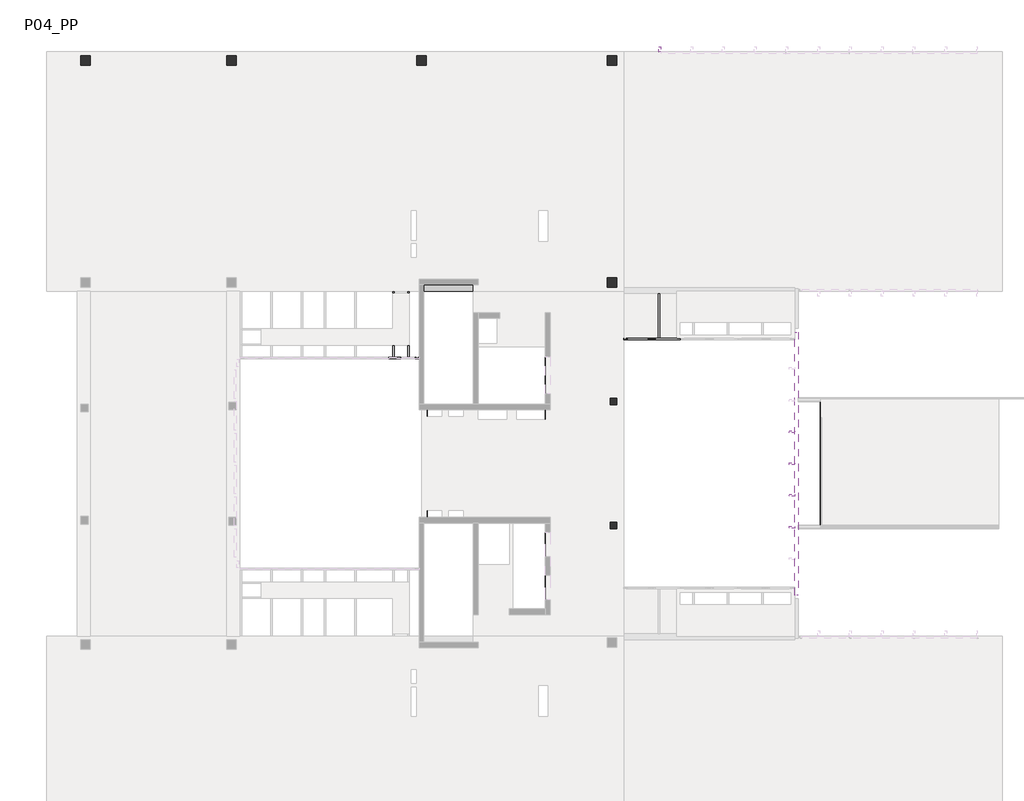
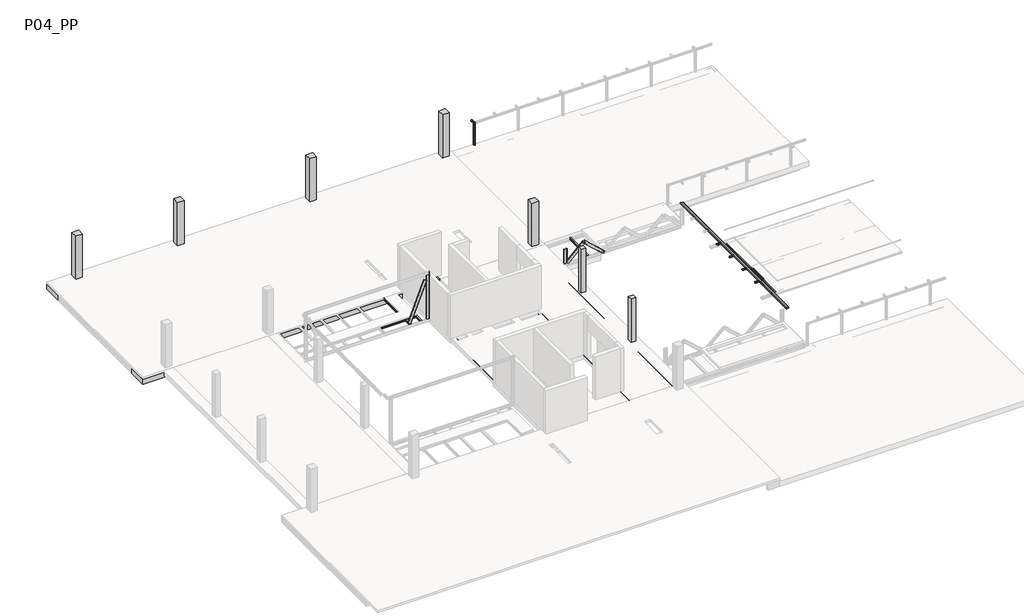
# One storey, part 4 of 5: 40 beams, 10 columns.
"""IFC4 building model written with IfcOpenShell, lengths in millimetres."""

from ifc_helpers import new_model, si_unit, frame, origin, place, context, project, spatial, polyline, outline, extrude, faceted_brep, transform, mapped, element, save
from components import m_hss_rectangular_hss_100x100_4e9eaf21, m_hss_rectangular_hss_100x100_54f2d0bd, m_hss_rectangular_hss_100x100_561cff20, m_hss_rectangular_hss_100x100_05ed1bb5, m_hss_rectangular_hss_200x100_8d3a1cac, ub_universal_beams_ipe_160x82_a4b44378, ub_universal_beams_ipe_160x82_39eb89cc, upn120x55_f3862d68, upn120x55_dbb17e30, upn200x75_e6c17937, upn200x75_e9c3a9f1, upn200x75_58a91052, rhs_rectangular_hollow_section_column_100x100x5_0rhs_4e292c9f, upn_200x75_6854b640, upn_200x75_6a680606

model = new_model("IFC4")

# Units and contexts
model_context = context("Model", 3, world=origin())
ifc_project = project(units=[si_unit("LENGTHUNIT", "METRE", prefix="MILLI")], contexts=[model_context])

# Site, building, storey
site = spatial("IfcSite", under=ifc_project)
building = spatial("IfcBuilding", under=site)
storey = spatial("IfcBuildingStorey", under=building, Name="P04_PP", Elevation=22410.0)

# Beams
placement = place(None, origin())
element("IfcBeam", 1, ObjectType="M_Concrete-Rectangular Beam : 1500 x 550mm", at=placement, inside=storey, context=model_context, shape_type="Brep", body=[
    faceted_brep([(-13390.3216429, 13539.4134441, 22410.0), (-10790.2146087, 13539.4134441, 22410.0), (-10790.2146087, 13864.8960677, 22410.0), (-13390.3216429, 13864.8960677, 22410.0), (-2913.6343046, 15039.4134441, 21860.0), (-3763.6636999, 15039.4134441, 21860.0), (-4149.6041777, 15039.4134441, 21860.0), (-4549.6041777, 15039.4134441, 21860.0), (-5816.2708415, 15039.4134441, 21860.0), (-6216.2708415, 15039.4134441, 21860.0), (-7482.9375051, 15039.4134441, 21860.0), (-7882.9375051, 15039.4134441, 21860.0), (-9149.6041702, 15039.4134441, 21860.0), (-9549.6041702, 15039.4134441, 21860.0), (-10816.2708336, 15039.4134441, 21860.0), (-11216.2708336, 15039.4134441, 21860.0), (-12482.9374977, 15039.4134441, 21860.0), (-12882.9374977, 15039.4134441, 21860.0), (-14149.604161, 15039.4134441, 21860.0), (-14549.604161, 15039.4134441, 21860.0), (-15816.2708252, 15039.4134441, 21860.0), (-16216.2708252, 15039.4134441, 21860.0), (-17482.9374898, 15039.4134441, 21860.0), (-17882.9374898, 15039.4134441, 21860.0), (-19149.6041539, 15039.4134441, 21860.0), (-19549.6041539, 15039.4134441, 21860.0), (-20816.2708168, 15039.4134441, 21860.0), (-21216.2708168, 15039.4134441, 21860.0), (-22482.9374805, 15039.4134441, 21860.0), (-22882.9374805, 15039.4134441, 21860.0), (-24149.6041453, 15039.4134441, 21860.0), (-24549.6041453, 15039.4134441, 21860.0), (-25816.2708089, 15039.4134441, 21860.0), (-26216.2708089, 15039.4134441, 21860.0), (-27482.9374731, 15039.4134441, 21860.0), (-27882.9374731, 15039.4134441, 21860.0), (-29149.6041367, 15039.4134441, 21860.0), (-29549.6041367, 15039.4134441, 21860.0), (-30816.2708024, 15039.4134441, 21860.0), (-31216.2708024, 15039.4134441, 21860.0), (-32490.2931069, 15039.4134441, 21860.0), (-33190.2931069, 15039.4134441, 21860.0), (-33190.2931069, 15039.4134441, 22260.0), (-32490.2931069, 15039.4134441, 22260.0), (-31216.2708024, 15039.4134441, 22260.0), (-30816.2708024, 15039.4134441, 22260.0), (-29549.6041367, 15039.4134441, 22260.0), (-29149.6041367, 15039.4134441, 22260.0), (-27882.9374731, 15039.4134441, 22260.0), (-27482.9374731, 15039.4134441, 22260.0), (-26216.2708089, 15039.4134441, 22260.0), (-25816.2708089, 15039.4134441, 22260.0), (-24549.6041453, 15039.4134441, 22260.0), (-24149.6041453, 15039.4134441, 22260.0), (-22882.9374805, 15039.4134441, 22260.0), (-22482.9374805, 15039.4134441, 22260.0), (-21216.2708168, 15039.4134441, 22260.0), (-20816.2708168, 15039.4134441, 22260.0), (-19549.6041539, 15039.4134441, 22260.0), (-19149.6041539, 15039.4134441, 22260.0), (-17882.9374898, 15039.4134441, 22260.0), (-17482.9374898, 15039.4134441, 22260.0), (-16216.2708252, 15039.4134441, 22260.0), (-15816.2708252, 15039.4134441, 22260.0), (-14549.604161, 15039.4134441, 22260.0), (-14149.604161, 15039.4134441, 22260.0), (-12882.9374977, 15039.4134441, 22260.0), (-12482.9374977, 15039.4134441, 22260.0), (-11216.2708336, 15039.4134441, 22260.0), (-10816.2708336, 15039.4134441, 22260.0), (-9549.6041702, 15039.4134441, 22260.0), (-9149.6041702, 15039.4134441, 22260.0), (-7882.9375051, 15039.4134441, 22260.0), (-7482.9375051, 15039.4134441, 22260.0), (-6216.2708415, 15039.4134441, 22260.0), (-5816.2708415, 15039.4134441, 22260.0), (-4549.6041777, 15039.4134441, 22260.0), (-4149.6041777, 15039.4134441, 22260.0), (-3763.6636999, 15039.4134441, 22260.0), (-2913.6343046, 15039.4134441, 22260.0), (-33190.2931069, 13539.4134441, 21860.0), (-2913.6343046, 14239.4134441, 21860.0), (-2913.6343046, 13539.4134441, 21860.0), (-3816.633703, 13539.4134441, 21860.0), (-13390.3216429, 13539.4134441, 21860.0), (-13390.3216429, 13864.8960687, 21860.0), (-10540.3248355, 13864.8960687, 21860.0), (-10540.3248355, 14164.8960687, 21860.0), (-13640.3216429, 14164.8960687, 21860.0), (-13640.3216429, 13539.4134441, 21860.0), (-23241.1836608, 13739.4137599, 21860.0), (-23241.1836604, 14289.4137599, 21860.0), (-23791.1836604, 14289.4137604, 21860.0), (-23791.1836608, 13739.4137604, 21860.0), (-30841.2250811, 13739.413749, 21860.0), (-30841.22508, 14289.413749, 21860.0), (-31391.22508, 14289.4137502, 21860.0), (-31391.2250811, 13739.4137502, 21860.0), (-3816.6337027, 13714.4124942, 21860.0), (-3266.6337027, 13714.412495, 21860.0), (-3266.6337035, 14239.4134441, 21860.0), (-3266.6337035, 14264.412495, 21860.0), (-3763.6636999, 14264.4124943, 21860.0), (-3816.6337035, 14264.4124942, 21860.0), (-13640.3216429, 13539.4134441, 22110.0542339), (-13390.3216429, 13539.4134441, 22110.0542339), (-2913.6343046, 13539.4134441, 22110.0), (-2913.6343046, 13539.4134441, 22260.0), (-10790.2146087, 13539.4134441, 22260.0), (-13390.3216429, 13539.4134441, 22260.0), (-33190.2931069, 13539.4134441, 22260.0), (-3816.6337027, 13714.4124942, 22110.0), (-3266.6337027, 13714.412495, 22110.0), (-3816.6337035, 14264.4124942, 22110.0), (-3266.6337035, 14264.412495, 22110.0), (-23241.1836608, 13739.4137599, 22110.0), (-23241.1836604, 14289.4137599, 22110.0), (-23791.1836608, 13739.4137604, 22110.0), (-23791.1836604, 14289.4137604, 22110.0), (-30841.2250811, 13739.413749, 22110.0), (-30841.22508, 14289.413749, 22110.0), (-31391.2250811, 13739.4137502, 22110.0), (-31391.22508, 14289.4137502, 22110.0), (-10540.3248355, 14164.8960687, 22110.0542339), (-13640.3216429, 14164.8960687, 22110.0542339), (-10540.3248355, 13864.8960687, 22110.0542339), (-13390.3216429, 13864.8960687, 22110.0542339), (-13640.3216429, 13864.8960687, 22110.0542339), (-10790.2146087, 13864.8960677, 22260.0), (-13390.3216429, 13864.8960677, 22260.0)], [[[0, 1, 2, 3]], [[4, 5, 6, 7, 8, 9, 10, 11, 12, 13, 14, 15, 16, 17, 18, 19, 20, 21, 22, 23, 24, 25, 26, 27, 28, 29, 30, 31, 32, 33, 34, 35, 36, 37, 38, 39, 40, 41, 42, 43, 44, 45, 46, 47, 48, 49, 50, 51, 52, 53, 54, 55, 56, 57, 58, 59, 60, 61, 62, 63, 64, 65, 66, 67, 68, 69, 70, 71, 72, 73, 74, 75, 76, 77, 78, 79]], [[80, 41, 40, 39, 38, 37, 36, 35, 34, 33, 32, 31, 30, 29, 28, 27, 26, 25, 24, 23, 22, 21, 20, 19, 18, 17, 16, 15, 14, 13, 12, 11, 10, 9, 8, 7, 6, 5, 4, 81, 82, 83, 84, 85, 86, 87, 88, 89], [90, 91, 92, 93], [94, 95, 96, 97], [98, 99, 100, 101, 102, 103]], [[89, 104, 105, 84, 83, 82, 106, 107, 108, 1, 0, 109, 110, 80]], [[41, 80, 110, 42]], [[111, 112, 99, 98]], [[113, 111, 98, 103]], [[114, 113, 103, 102, 101]], [[114, 112, 111, 113]], [[115, 116, 91, 90]], [[117, 115, 90, 93]], [[118, 117, 93, 92]], [[116, 118, 92, 91]], [[116, 115, 117, 118]], [[119, 120, 95, 94]], [[121, 119, 94, 97]], [[122, 121, 97, 96]], [[120, 122, 96, 95]], [[120, 119, 121, 122]], [[123, 124, 88, 87]], [[125, 86, 85, 126]], [[124, 123, 125, 126, 105, 104, 127]], [[125, 123, 87, 86]], [[88, 124, 127, 104, 89]], [[105, 126, 85, 84]], [[82, 81, 4, 79, 107, 106]], [[112, 114, 101, 100, 99]], [[128, 108, 107, 79, 78, 77, 76, 75, 74, 73, 72, 71, 70, 69, 68, 67, 66, 65, 64, 63, 62, 61, 60, 59, 58, 57, 56, 55, 54, 53, 52, 51, 50, 49, 48, 47, 46, 45, 44, 43, 42, 110, 109, 129]], [[128, 129, 3, 2]], [[129, 109, 0, 3]], [[108, 128, 2, 1]]]),
])
element("IfcBeam", 2, ObjectType="M_Concrete-Rectangular Beam : 1500 x 550mm", at=placement, inside=storey, context=model_context, shape_type="Brep", body=[
    faceted_brep([(-3816.6337142, 26089.4144807, 21860.0), (-33190.2931069, 26089.4144807, 21860.0), (-33190.2931069, 26089.4144807, 22260.0), (-3763.6636999, 26089.4144807, 22260.0), (-3763.6636999, 26089.4144807, 22110.0), (-3816.6337142, 26089.4144807, 22110.0), (-33190.2931069, 24589.4144807, 21860.0), (-3816.6337137, 25339.4136759, 21860.0), (-3763.6636999, 25339.413676, 21860.0), (-3763.6636999, 24589.4144807, 21860.0), (-4149.6041777, 24589.4144807, 21860.0), (-4549.6041777, 24589.4144807, 21860.0), (-5816.2708415, 24589.4144807, 21860.0), (-6216.2708415, 24589.4144807, 21860.0), (-7482.9375051, 24589.4144807, 21860.0), (-7882.9375051, 24589.4144807, 21860.0), (-9149.6041702, 24589.4144807, 21860.0), (-9549.6041702, 24589.4144807, 21860.0), (-10816.2708336, 24589.4144807, 21860.0), (-11216.2708336, 24589.4144807, 21860.0), (-12482.9374977, 24589.4144807, 21860.0), (-12882.9374977, 24589.4144807, 21860.0), (-14149.604161, 24589.4144807, 21860.0), (-14549.604161, 24589.4144807, 21860.0), (-15816.2708252, 24589.4144807, 21860.0), (-16216.2708252, 24589.4144807, 21860.0), (-17482.9374898, 24589.4144807, 21860.0), (-17882.9374898, 24589.4144807, 21860.0), (-19149.6041539, 24589.4144807, 21860.0), (-19549.6041539, 24589.4144807, 21860.0), (-20816.2708168, 24589.4144807, 21860.0), (-21216.2708168, 24589.4144807, 21860.0), (-22482.9374805, 24589.4144807, 21860.0), (-22882.9374805, 24589.4144807, 21860.0), (-24149.6041453, 24589.4144807, 21860.0), (-24549.6041453, 24589.4144807, 21860.0), (-25816.2708089, 24589.4144807, 21860.0), (-26216.2708089, 24589.4144807, 21860.0), (-27482.9374731, 24589.4144807, 21860.0), (-27882.9374731, 24589.4144807, 21860.0), (-29149.6041367, 24589.4144807, 21860.0), (-29549.6041367, 24589.4144807, 21860.0), (-30816.2708024, 24589.4144807, 21860.0), (-31216.2708024, 24589.4144807, 21860.0), (-32490.2931069, 24589.4144807, 21860.0), (-13241.1844619, 25339.4121159, 21860.0), (-13241.1844629, 25889.4121159, 21860.0), (-13791.1844629, 25889.4121149, 21860.0), (-13791.1844619, 25339.4121149, 21860.0), (-23241.1831655, 25339.4135766, 21860.0), (-23241.1831663, 25889.4135766, 21860.0), (-23791.1831663, 25889.4135759, 21860.0), (-23791.1831655, 25339.4135759, 21860.0), (-30841.2187551, 25339.4135456, 21860.0), (-30841.2187544, 25889.4135456, 21860.0), (-31391.2187544, 25889.4135463, 21860.0), (-31391.2187551, 25339.4135463, 21860.0), (-3763.6636999, 24589.4144807, 22260.0), (-4149.6041777, 24589.4144807, 22260.0), (-4549.6041777, 24589.4144807, 22260.0), (-5816.2708415, 24589.4144807, 22260.0), (-6216.2708415, 24589.4144807, 22260.0), (-7482.9375051, 24589.4144807, 22260.0), (-7882.9375051, 24589.4144807, 22260.0), (-9149.6041702, 24589.4144807, 22260.0), (-9549.6041702, 24589.4144807, 22260.0), (-10816.2708336, 24589.4144807, 22260.0), (-11216.2708336, 24589.4144807, 22260.0), (-12482.9374977, 24589.4144807, 22260.0), (-12882.9374977, 24589.4144807, 22260.0), (-14149.604161, 24589.4144807, 22260.0), (-14549.604161, 24589.4144807, 22260.0), (-15816.2708252, 24589.4144807, 22260.0), (-16216.2708252, 24589.4144807, 22260.0), (-17482.9374898, 24589.4144807, 22260.0), (-17882.9374898, 24589.4144807, 22260.0), (-19149.6041539, 24589.4144807, 22260.0), (-19549.6041539, 24589.4144807, 22260.0), (-20816.2708168, 24589.4144807, 22260.0), (-21216.2708168, 24589.4144807, 22260.0), (-22482.9374805, 24589.4144807, 22260.0), (-22882.9374805, 24589.4144807, 22260.0), (-24149.6041453, 24589.4144807, 22260.0), (-24549.6041453, 24589.4144807, 22260.0), (-25816.2708089, 24589.4144807, 22260.0), (-26216.2708089, 24589.4144807, 22260.0), (-27482.9374731, 24589.4144807, 22260.0), (-27882.9374731, 24589.4144807, 22260.0), (-29149.6041367, 24589.4144807, 22260.0), (-29549.6041367, 24589.4144807, 22260.0), (-30816.2708024, 24589.4144807, 22260.0), (-31216.2708024, 24589.4144807, 22260.0), (-32490.2931069, 24589.4144807, 22260.0), (-33190.2931069, 24589.4144807, 22260.0), (-13241.1844619, 25339.4121159, 22110.0), (-13241.1844629, 25889.4121159, 22110.0), (-13791.1844619, 25339.4121149, 22110.0), (-13791.1844629, 25889.4121149, 22110.0), (-23241.1831655, 25339.4135766, 22110.0), (-23241.1831663, 25889.4135766, 22110.0), (-23791.1831655, 25339.4135759, 22110.0), (-23791.1831663, 25889.4135759, 22110.0), (-30841.2187551, 25339.4135456, 22110.0), (-30841.2187544, 25889.4135456, 22110.0), (-31391.2187551, 25339.4135463, 22110.0), (-31391.2187544, 25889.4135463, 22110.0), (-3816.6337137, 25339.4136759, 22110.0), (-3763.6636999, 25339.413676, 22110.0), (-3816.6337144, 25889.4136759, 22110.0)], [[[0, 1, 2, 3, 4, 5]], [[6, 1, 0, 7, 8, 9, 10, 11, 12, 13, 14, 15, 16, 17, 18, 19, 20, 21, 22, 23, 24, 25, 26, 27, 28, 29, 30, 31, 32, 33, 34, 35, 36, 37, 38, 39, 40, 41, 42, 43, 44], [45, 46, 47, 48], [49, 50, 51, 52], [53, 54, 55, 56]], [[6, 44, 43, 42, 41, 40, 39, 38, 37, 36, 35, 34, 33, 32, 31, 30, 29, 28, 27, 26, 25, 24, 23, 22, 21, 20, 19, 18, 17, 16, 15, 14, 13, 12, 11, 10, 9, 57, 58, 59, 60, 61, 62, 63, 64, 65, 66, 67, 68, 69, 70, 71, 72, 73, 74, 75, 76, 77, 78, 79, 80, 81, 82, 83, 84, 85, 86, 87, 88, 89, 90, 91, 92, 93]], [[1, 6, 93, 2]], [[94, 95, 46, 45]], [[96, 94, 45, 48]], [[97, 96, 48, 47]], [[95, 97, 47, 46]], [[95, 94, 96, 97]], [[98, 99, 50, 49]], [[100, 98, 49, 52]], [[101, 100, 52, 51]], [[99, 101, 51, 50]], [[99, 98, 100, 101]], [[102, 103, 54, 53]], [[104, 102, 53, 56]], [[105, 104, 56, 55]], [[103, 105, 55, 54]], [[103, 102, 104, 105]], [[7, 106, 107, 8]], [[106, 7, 0, 5, 108]], [[107, 106, 108, 5, 4]], [[9, 8, 107, 4, 3, 57]], [[3, 2, 93, 92, 91, 90, 89, 88, 87, 86, 85, 84, 83, 82, 81, 80, 79, 78, 77, 76, 75, 74, 73, 72, 71, 70, 69, 68, 67, 66, 65, 64, 63, 62, 61, 60, 59, 58, 57]]]),
])
element("IfcBeam", 3, ObjectType="M_Concrete-Rectangular Beam : 300 x 300mm", at=placement, inside=storey, context=model_context, shape_type="Brep", body=[
    faceted_brep([(-6715.3241677, 13539.4134441, 22410.0), (-7015.3241677, 13539.4134441, 22410.0), (-7015.3241677, -4560.5861501, 22410.0), (-6715.3241677, -4560.5861501, 22410.0), (-7015.3241677, 13539.4134441, 22260.0), (-7015.3241677, 13539.4134441, 22110.0), (-7015.3241677, -4560.5861501, 22110.0), (-7015.3241677, -4560.5861501, 22260.0), (-6715.3241677, 13539.4134441, 22110.0), (-6715.3241677, -4560.5861501, 22110.0), (-6715.3241677, -4560.5861501, 22260.0), (-6715.3241677, 13539.4134441, 22260.0)], [[[0, 1, 2, 3]], [[2, 1, 4, 5, 6, 7]], [[5, 8, 9, 6]], [[0, 3, 10, 9, 8, 11]], [[1, 0, 11, 8, 5, 4]], [[3, 2, 7, 6, 9, 10]]]),
])
element("IfcBeam", 4, ObjectType="M_Concrete-Rectangular Beam : 300 x 300mm", at=placement, inside=storey, context=model_context, shape_type="SweptSolid", body=[
    extrude(outline(polyline([(-13515.3183744, 7614.8960673), (-13215.3183744, 7614.8960673), (-13215.3183744, 1364.8960692), (-13515.3183744, 1364.8960692), (-13515.3183744, 7614.8960673)])), frame((0.0, 0.0, 22110.0), z_axis=(0.0, 0.0, 1.0), x_axis=(1.0, 0.0, 0.0)), (0.0, 0.0, 1.0), 300.0),
])
element("IfcBeam", 5, ObjectType="M_Concrete-Rectangular Beam : 400 x 550mm", at=placement, inside=storey, context=model_context, shape_type="SweptSolid", body=[
    extrude(outline(polyline([(-30816.2708024, 15039.4134441), (-31216.2708024, 15039.4134441), (-31216.2708024, 24589.4144807), (-30816.2708024, 24589.4144807), (-30816.2708024, 15039.4134441)])), frame((0.0, 0.0, 21860.0), z_axis=(0.0, 0.0, 1.0), x_axis=(1.0, 0.0, 0.0)), (0.0, 0.0, 1.0), 400.0),
])
element("IfcBeam", 6, ObjectType="M_Concrete-Rectangular Beam : 400 x 550mm", at=placement, inside=storey, context=model_context, shape_type="SweptSolid", body=[
    extrude(outline(polyline([(-29149.6041367, 15039.4134441), (-29549.6041367, 15039.4134441), (-29549.6041367, 24589.4144807), (-29149.6041367, 24589.4144807), (-29149.6041367, 15039.4134441)])), frame((0.0, 0.0, 21860.0), z_axis=(0.0, 0.0, 1.0), x_axis=(1.0, 0.0, 0.0)), (0.0, 0.0, 1.0), 400.0),
])
element("IfcBeam", 7, ObjectType="M_Concrete-Rectangular Beam : 400 x 550mm", at=placement, inside=storey, context=model_context, shape_type="SweptSolid", body=[
    extrude(outline(polyline([(-27482.9374731, 15039.4134441), (-27882.9374731, 15039.4134441), (-27882.9374731, 24589.4144807), (-27482.9374731, 24589.4144807), (-27482.9374731, 15039.4134441)])), frame((0.0, 0.0, 21860.0), z_axis=(0.0, 0.0, 1.0), x_axis=(1.0, 0.0, 0.0)), (0.0, 0.0, 1.0), 400.0),
])
element("IfcBeam", 8, ObjectType="M_Concrete-Rectangular Beam : 400 x 550mm", at=placement, inside=storey, context=model_context, shape_type="SweptSolid", body=[
    extrude(outline(polyline([(-25816.2708089, 15039.4134441), (-26216.2708089, 15039.4134441), (-26216.2708089, 24589.4144807), (-25816.2708089, 24589.4144807), (-25816.2708089, 15039.4134441)])), frame((0.0, 0.0, 21860.0), z_axis=(0.0, 0.0, 1.0), x_axis=(1.0, 0.0, 0.0)), (0.0, 0.0, 1.0), 400.0),
])
element("IfcBeam", 9, ObjectType="M_Concrete-Rectangular Beam : 400 x 550mm", at=placement, inside=storey, context=model_context, shape_type="SweptSolid", body=[
    extrude(outline(polyline([(-24149.6041453, 15039.4134441), (-24549.6041453, 15039.4134441), (-24549.6041453, 24589.4144807), (-24149.6041453, 24589.4144807), (-24149.6041453, 15039.4134441)])), frame((0.0, 0.0, 21860.0), z_axis=(0.0, 0.0, 1.0), x_axis=(1.0, 0.0, 0.0)), (0.0, 0.0, 1.0), 400.0),
])
element("IfcBeam", 10, ObjectType="M_Concrete-Rectangular Beam : 400 x 550mm", at=placement, inside=storey, context=model_context, shape_type="SweptSolid", body=[
    extrude(outline(polyline([(-22482.9374805, 15039.4134441), (-22882.9374805, 15039.4134441), (-22882.9374805, 24589.4144807), (-22482.9374805, 24589.4144807), (-22482.9374805, 15039.4134441)])), frame((0.0, 0.0, 21860.0), z_axis=(0.0, 0.0, 1.0), x_axis=(1.0, 0.0, 0.0)), (0.0, 0.0, 1.0), 400.0),
])
element("IfcBeam", 11, ObjectType="M_Concrete-Rectangular Beam : 400 x 550mm", at=placement, inside=storey, context=model_context, shape_type="SweptSolid", body=[
    extrude(outline(polyline([(-20816.2708168, 15039.4134441), (-21216.2708168, 15039.4134441), (-21216.2708168, 24589.4144807), (-20816.2708168, 24589.4144807), (-20816.2708168, 15039.4134441)])), frame((0.0, 0.0, 21860.0), z_axis=(0.0, 0.0, 1.0), x_axis=(1.0, 0.0, 0.0)), (0.0, 0.0, 1.0), 400.0),
])
element("IfcBeam", 12, ObjectType="M_Concrete-Rectangular Beam : 400 x 550mm", at=placement, inside=storey, context=model_context, shape_type="SweptSolid", body=[
    extrude(outline(polyline([(-19149.6041539, 15039.4134441), (-19549.6041539, 15039.4134441), (-19549.6041539, 24589.4144807), (-19149.6041539, 24589.4144807), (-19149.6041539, 15039.4134441)])), frame((0.0, 0.0, 21860.0), z_axis=(0.0, 0.0, 1.0), x_axis=(1.0, 0.0, 0.0)), (0.0, 0.0, 1.0), 400.0),
])
element("IfcBeam", 13, ObjectType="M_Concrete-Rectangular Beam : 400 x 550mm", at=placement, inside=storey, context=model_context, shape_type="SweptSolid", body=[
    extrude(outline(polyline([(-17482.9374898, 15039.4134441), (-17882.9374898, 15039.4134441), (-17882.9374898, 24589.4144807), (-17482.9374898, 24589.4144807), (-17482.9374898, 15039.4134441)])), frame((0.0, 0.0, 21860.0), z_axis=(0.0, 0.0, 1.0), x_axis=(1.0, 0.0, 0.0)), (0.0, 0.0, 1.0), 400.0),
])
element("IfcBeam", 14, ObjectType="M_Concrete-Rectangular Beam : 400 x 550mm", at=placement, inside=storey, context=model_context, shape_type="SweptSolid", body=[
    extrude(outline(polyline([(-15816.2708252, 15039.4134441), (-16216.2708252, 15039.4134441), (-16216.2708252, 24589.4144807), (-15816.2708252, 24589.4144807), (-15816.2708252, 15039.4134441)])), frame((0.0, 0.0, 21860.0), z_axis=(0.0, 0.0, 1.0), x_axis=(1.0, 0.0, 0.0)), (0.0, 0.0, 1.0), 400.0),
])
element("IfcBeam", 15, ObjectType="M_Concrete-Rectangular Beam : 400 x 550mm", at=placement, inside=storey, context=model_context, shape_type="SweptSolid", body=[
    extrude(outline(polyline([(-14149.604161, 15039.4134441), (-14549.604161, 15039.4134441), (-14549.604161, 24589.4144807), (-14149.604161, 24589.4144807), (-14149.604161, 15039.4134441)])), frame((0.0, 0.0, 21860.0), z_axis=(0.0, 0.0, 1.0), x_axis=(1.0, 0.0, 0.0)), (0.0, 0.0, 1.0), 400.0),
])
element("IfcBeam", 16, ObjectType="M_Concrete-Rectangular Beam : 400 x 550mm", at=placement, inside=storey, context=model_context, shape_type="SweptSolid", body=[
    extrude(outline(polyline([(-12482.9374977, 15039.4134441), (-12882.9374977, 15039.4134441), (-12882.9374977, 24589.4144807), (-12482.9374977, 24589.4144807), (-12482.9374977, 15039.4134441)])), frame((0.0, 0.0, 21860.0), z_axis=(0.0, 0.0, 1.0), x_axis=(1.0, 0.0, 0.0)), (0.0, 0.0, 1.0), 400.0),
])
element("IfcBeam", 17, ObjectType="M_Concrete-Rectangular Beam : 400 x 550mm", at=placement, inside=storey, context=model_context, shape_type="SweptSolid", body=[
    extrude(outline(polyline([(-10816.2708336, 15039.4134441), (-11216.2708336, 15039.4134441), (-11216.2708336, 24589.4144807), (-10816.2708336, 24589.4144807), (-10816.2708336, 15039.4134441)])), frame((0.0, 0.0, 21860.0), z_axis=(0.0, 0.0, 1.0), x_axis=(1.0, 0.0, 0.0)), (0.0, 0.0, 1.0), 400.0),
])
element("IfcBeam", 18, ObjectType="M_Concrete-Rectangular Beam : 400 x 550mm", at=placement, inside=storey, context=model_context, shape_type="SweptSolid", body=[
    extrude(outline(polyline([(-9149.6041702, 15039.4134441), (-9549.6041702, 15039.4134441), (-9549.6041702, 24589.4144807), (-9149.6041702, 24589.4144807), (-9149.6041702, 15039.4134441)])), frame((0.0, 0.0, 21860.0), z_axis=(0.0, 0.0, 1.0), x_axis=(1.0, 0.0, 0.0)), (0.0, 0.0, 1.0), 400.0),
])
element("IfcBeam", 19, ObjectType="M_Concrete-Rectangular Beam : 400 x 550mm", at=placement, inside=storey, context=model_context, shape_type="SweptSolid", body=[
    extrude(outline(polyline([(-7482.9375051, 15039.4134441), (-7882.9375051, 15039.4134441), (-7882.9375051, 24589.4144807), (-7482.9375051, 24589.4144807), (-7482.9375051, 15039.4134441)])), frame((0.0, 0.0, 21860.0), z_axis=(0.0, 0.0, 1.0), x_axis=(1.0, 0.0, 0.0)), (0.0, 0.0, 1.0), 400.0),
])
element("IfcBeam", 20, ObjectType="M_Concrete-Rectangular Beam : 400 x 550mm", at=placement, inside=storey, context=model_context, shape_type="SweptSolid", body=[
    extrude(outline(polyline([(-5816.2708415, 15039.4134441), (-6216.2708415, 15039.4134441), (-6216.2708415, 24589.4144807), (-5816.2708415, 24589.4144807), (-5816.2708415, 15039.4134441)])), frame((0.0, 0.0, 21860.0), z_axis=(0.0, 0.0, 1.0), x_axis=(1.0, 0.0, 0.0)), (0.0, 0.0, 1.0), 400.0),
])
element("IfcBeam", 21, ObjectType="M_Concrete-Rectangular Beam : 400 x 550mm", at=placement, inside=storey, context=model_context, shape_type="SweptSolid", body=[
    extrude(outline(polyline([(-4149.6041777, 15039.4134441), (-4549.6041777, 15039.4134441), (-4549.6041777, 24589.4144807), (-4149.6041777, 24589.4144807), (-4149.6041777, 15039.4134441)])), frame((0.0, 0.0, 21860.0), z_axis=(0.0, 0.0, 1.0), x_axis=(1.0, 0.0, 0.0)), (0.0, 0.0, 1.0), 400.0),
])
element("IfcBeam", 22, ObjectType="M_Concrete-Rectangular Beam : 850 x 300mm", at=placement, inside=storey, context=model_context, shape_type="Brep", body=[
    faceted_brep([(-2913.6343046, 13539.4134441, 22410.0), (-3763.6343046, 13539.4134441, 22410.0), (-3763.6343046, -4560.5861501, 22410.0), (-2913.6343046, -4560.5861501, 22410.0), (-3763.6343046, 13539.4134441, 22260.0), (-3763.6343046, 13539.4134441, 22110.0), (-3763.6343046, -4560.5861501, 22110.0), (-3763.6343046, -4560.5861501, 22260.0), (-2913.6343046, 13539.4134441, 22110.0), (-2913.6343046, -4560.5861501, 22110.0), (-2913.6343046, -4560.5861501, 22260.0), (-2913.6343046, 13539.4134441, 22260.0)], [[[0, 1, 2, 3]], [[2, 1, 4, 5, 6, 7]], [[5, 8, 9, 6]], [[0, 3, 10, 9, 8, 11]], [[1, 0, 11, 8, 5, 4]], [[3, 2, 7, 6, 9, 10]]]),
])
element("IfcBeam", 23, ObjectType="M_Concrete-Rectangular Beam : 850 x 700mm", at=placement, inside=storey, context=model_context, shape_type="Brep", body=[
    faceted_brep([(-3266.6337035, 14264.412495, 21710.0), (-3763.6636999, 14264.4124943, 21710.0), (-3763.6636999, 25339.413676, 21710.0), (-3266.6337137, 25339.4136766, 21710.0), (-3266.6337138, 25389.4144807, 21710.0), (-2913.6636999, 25389.4144807, 21710.0), (-2913.6636999, 14239.4134441, 21710.0), (-3266.6337035, 14239.4134441, 21710.0), (-2913.6636999, 15039.4134441, 22110.0), (-2913.6636999, 15039.4134441, 21860.0), (-2913.6636999, 14239.4134441, 21860.0), (-2913.6636999, 25389.4144807, 22110.0), (-2913.6636999, 26089.4144807, 22110.0), (-2913.6636999, 26089.4144807, 22260.0), (-2913.6636999, 15039.4134441, 22260.0), (-3763.6636999, 26089.4144807, 22110.0), (-3763.6636999, 26089.4144807, 22260.0), (-3763.6636999, 15039.4134441, 21860.0), (-3763.6636999, 15039.4134441, 22260.0), (-3763.6636999, 15039.4134441, 22110.0), (-3763.6636999, 14264.4124943, 21860.0), (-3266.6337035, 14264.412495, 21860.0), (-3266.6337035, 14239.4134441, 21860.0), (-3763.6636999, 24589.4144807, 22260.0), (-3763.6636999, 25339.413676, 22110.0), (-3763.6636999, 25339.413676, 21860.0), (-3266.6337137, 25339.4136766, 22110.0), (-3266.6337138, 25389.4144807, 22110.0)], [[[0, 1, 2, 3, 4, 5, 6, 7]], [[8, 9, 10, 6, 5, 11, 12, 13, 14]], [[12, 15, 16, 13]], [[17, 9, 8, 14, 18, 19]], [[9, 17, 20, 21, 22, 10]], [[21, 0, 7, 22]], [[0, 21, 20, 1]], [[17, 19, 18, 23, 16, 15, 24, 25, 2, 1, 20]], [[3, 26, 27, 4]], [[26, 3, 2, 25, 24]], [[26, 24, 15, 12, 11, 27]], [[5, 4, 27, 11]], [[7, 6, 10, 22]], [[14, 13, 16, 23, 18]]]),
])
m_hss_rectangular_hss_100x100_shape = m_hss_rectangular_hss_100x100_4e9eaf21(model_context)
element("IfcBeam", 24, ObjectType="M_HSS Rectangular : HSS 100x100", at=placement, inside=storey, context=model_context, shape_type="MappedRepresentation", body=[
    mapped(m_hss_rectangular_hss_100x100_shape, transform((-1015.318447, 26204.41325, 23860.0), x_axis=(1.2959202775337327e-06, 0.9999999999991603, 0.0), y_axis=(-0.9999999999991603, 1.2959202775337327e-06, 0.0), z_axis=(0.0, 0.0, 1.0))),
])
m_hss_rectangular_hss_100x100_2_shape = m_hss_rectangular_hss_100x100_54f2d0bd(model_context)
element("IfcBeam", 25, ObjectType="M_HSS Rectangular : HSS 100x100", at=placement, inside=storey, context=model_context, shape_type="MappedRepresentation", body=[
    mapped(m_hss_rectangular_hss_100x100_2_shape, transform((5968.4880893, 1155.685482, 23860.0), x_axis=(1.0, -1.2790382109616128e-09, 0.0), y_axis=(1.2790382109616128e-09, 1.0, 0.0), z_axis=(0.0, 0.0, 1.0))),
])
element("IfcBeam", 26, ObjectType="M_HSS Rectangular : HSS 100x100", at=placement, inside=storey, context=model_context, shape_type="MappedRepresentation", body=[
    mapped(m_hss_rectangular_hss_100x100_2_shape, transform((5968.4880893, 4489.0854831, 23860.0), x_axis=(1.0, -1.2790382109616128e-09, 0.0), y_axis=(1.2790382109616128e-09, 1.0, 0.0), z_axis=(0.0, 0.0, 1.0))),
])
m_hss_rectangular_hss_100x100_3_shape = m_hss_rectangular_hss_100x100_561cff20(model_context)
element("IfcBeam", 27, ObjectType="M_HSS Rectangular : HSS 100x100", at=placement, inside=storey, context=model_context, shape_type="MappedRepresentation", body=[
    mapped(m_hss_rectangular_hss_100x100_3_shape, transform((5918.3679567, 6155.7854813, 23860.0), x_axis=(1.0, -1.2790382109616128e-09, 0.0), y_axis=(1.2790382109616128e-09, 1.0, 0.0), z_axis=(0.0, 0.0, 1.0))),
])
element("IfcBeam", 28, ObjectType="M_HSS Rectangular : HSS 100x100", at=placement, inside=storey, context=model_context, shape_type="MappedRepresentation", body=[
    mapped(m_hss_rectangular_hss_100x100_3_shape, transform((5918.3976003, 2822.3854816, 23860.0), x_axis=(1.0, -1.2790382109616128e-09, 0.0), y_axis=(1.2790382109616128e-09, 1.0, 0.0), z_axis=(0.0, 0.0, 1.0))),
])
m_hss_rectangular_hss_100x100_4_shape = m_hss_rectangular_hss_100x100_05ed1bb5(model_context)
element("IfcBeam", 29, ObjectType="M_HSS Rectangular : HSS 100x100", at=placement, inside=storey, context=model_context, shape_type="MappedRepresentation", body=[
    mapped(m_hss_rectangular_hss_100x100_4_shape, transform((7459.6623591, 4499.1459706, 22380.0), x_axis=(-5.948516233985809e-09, -1.0, 0.0), y_axis=(1.0, -5.948516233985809e-09, 0.0), z_axis=(0.0, 0.0, 1.0))),
])
m_hss_rectangular_hss_200x100_shape = m_hss_rectangular_hss_200x100_8d3a1cac(model_context)
element("IfcBeam", 30, ObjectType="M_HSS Rectangular : HSS 200x100", at=placement, inside=storey, context=model_context, shape_type="MappedRepresentation", body=[
    mapped(m_hss_rectangular_hss_200x100_shape, transform((6158.3641895, 4489.413647, 23860.0), x_axis=(1.778582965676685e-05, -0.999999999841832, 0.0), y_axis=(0.0, 0.0, -1.0), z_axis=(0.999999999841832, 1.778582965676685e-05, 0.0))),
])
ub_universal_beams_ipe_160x82_shape = ub_universal_beams_ipe_160x82_a4b44378(model_context)
element("IfcBeam", 31, ObjectType="UB-Universal Beams : IPE 160x82", at=placement, inside=storey, context=model_context, shape_type="MappedRepresentation", body=[
    mapped(ub_universal_beams_ipe_160x82_shape, transform((-14190.4459331, 12171.9464504, 22330.0), x_axis=(0.0, -1.0, 0.0), y_axis=(1.0, 0.0, 0.0), z_axis=(0.0, 0.0, 1.0))),
])
element("IfcBeam", 32, ObjectType="UB-Universal Beams : IPE 160x82", at=placement, inside=storey, context=model_context, shape_type="MappedRepresentation", body=[
    mapped(ub_universal_beams_ipe_160x82_shape, transform((-14990.4459326, 12171.9464378, 22330.0), x_axis=(0.0, -1.0, 0.0), y_axis=(1.0, 0.0, 0.0), z_axis=(0.0, 0.0, 1.0))),
])
ub_universal_beams_ipe_160x82_2_shape = ub_universal_beams_ipe_160x82_39eb89cc(model_context)
element("IfcBeam", 33, ObjectType="UB-Universal Beams : IPE 160x82", at=placement, inside=storey, context=model_context, shape_type="MappedRepresentation", body=[
    mapped(ub_universal_beams_ipe_160x82_2_shape, transform((-1067.7389197, 12312.0186804, 22330.0), x_axis=(3.4990648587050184e-06, -0.9999999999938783, 0.0), y_axis=(0.9999999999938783, 3.4990648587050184e-06, 0.0), z_axis=(0.0, 0.0, 1.0))),
])
upn120x55_shape = upn120x55_f3862d68(model_context)
element("IfcBeam", 34, ObjectType="M_MC Shapes : UPN120x55", at=placement, inside=storey, context=model_context, shape_type="MappedRepresentation", body=[
    mapped(upn120x55_shape, transform((-15990.4459321, 10751.9795763, 22350.0), x_axis=(0.9999999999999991, 4.319865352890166e-08, 0.0), y_axis=(-4.319865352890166e-08, 0.9999999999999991, 0.0), z_axis=(0.0, 0.0, 1.0))),
])
element("IfcBeam", 35, ObjectType="M_MC Shapes : UPN120x55", at=placement, inside=storey, context=model_context, shape_type="MappedRepresentation", body=[
    mapped(upn120x55_shape, transform((-15990.4459321, 11551.9795602, 22350.0), x_axis=(0.9999999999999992, 4.0441290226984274e-08, 0.0), y_axis=(-4.0441290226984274e-08, 0.9999999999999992, 0.0), z_axis=(0.0, 0.0, 1.0))),
])
upn120x55_2_shape = upn120x55_dbb17e30(model_context)
element("IfcBeam", 36, ObjectType="M_MC Shapes : UPN120x55", at=placement, inside=storey, context=model_context, shape_type="MappedRepresentation", body=[
    mapped(upn120x55_2_shape, transform((-14590.4459328, 11551.9796168, 22350.0), x_axis=(0.9999999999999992, 4.0441290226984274e-08, 0.0), y_axis=(-4.0441290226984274e-08, 0.9999999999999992, 0.0), z_axis=(0.0, 0.0, 1.0))),
])
element("IfcBeam", 37, ObjectType="M_MC Shapes : UPN120x55", at=placement, inside=storey, context=model_context, shape_type="MappedRepresentation", body=[
    mapped(upn120x55_2_shape, transform((-14590.4459328, 10751.9796368, 22350.0), x_axis=(0.9999999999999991, 4.319865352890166e-08, 0.0), y_axis=(-4.319865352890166e-08, 0.9999999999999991, 0.0), z_axis=(0.0, 0.0, 1.0))),
])
upn200x75_shape = upn200x75_e6c17937(model_context)
element("IfcBeam", 38, ObjectType="M_MC Shapes : UPN200x75", at=placement, inside=storey, context=model_context, shape_type="MappedRepresentation", body=[
    mapped(upn200x75_shape, transform((-14469.7052054, 10001.2791702, 24233.85925), x_axis=(0.3712989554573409, 1.1791241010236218e-08, 0.9285133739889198), y_axis=(3.175673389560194e-08, -0.9999999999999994, 0.0), z_axis=(0.9285133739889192, 2.9486552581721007e-08, -0.371298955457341))),
])
upn200x75_2_shape = upn200x75_e9c3a9f1(model_context)
element("IfcBeam", 39, ObjectType="M_MC Shapes : UPN200x75", at=placement, inside=storey, context=model_context, shape_type="MappedRepresentation", body=[
    mapped(upn200x75_2_shape, transform((-676.3405064, 10990.5239398, 22985.0000184), x_axis=(0.7432941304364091, 1.1576553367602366e-08, -0.6689647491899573), y_axis=(1.5574657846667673e-08, -1.0, 0.0), z_axis=(-0.6689647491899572, -1.0418895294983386e-08, -0.7432941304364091))),
])
upn200x75_3_shape = upn200x75_58a91052(model_context)
element("IfcBeam", 40, ObjectType="M_MC Shapes : UPN200x75", at=placement, inside=storey, context=model_context, shape_type="MappedRepresentation", body=[
    mapped(upn200x75_3_shape, transform((-2113.8405229, 10990.5239296, 22985.0000184), x_axis=(-0.713563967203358, 1.1791253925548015e-08, -0.7005900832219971), y_axis=(1.652445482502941e-08, 1.0, 0.0), z_axis=(0.7005900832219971, -1.1576870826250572e-08, -0.7135639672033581))),
])

# Columns
element("IfcColumn", 41, ObjectType="Concrete-Rectangular-Column : Pilar_Rectangular-Formigo-350x350", at=placement, inside=storey, context=model_context, shape_type="SweptSolid", body=[
    extrude(outline(polyline([(-3266.6337106, 1414.5831182), (-3266.6337074, 1064.5831182), (-3616.6337074, 1064.5831151), (-3616.6337106, 1414.5831151), (-3266.6337106, 1414.5831182)])), frame((0.0, 0.0, 22410.0), z_axis=(0.0, 0.0, 1.0), x_axis=(1.0, 0.0, 0.0)), (0.0, 0.0, 1.0), 3450.0),
])
element("IfcColumn", 42, ObjectType="Concrete-Rectangular-Column : Pilar_Rectangular-Formigo-350x350", at=placement, inside=storey, context=model_context, shape_type="SweptSolid", body=[
    extrude(outline(polyline([(-3266.6337087, 7914.5831126), (-3266.6337086, 7564.5831126), (-3616.6337086, 7564.5831125), (-3616.6337087, 7914.5831125), (-3266.6337087, 7914.5831126)])), frame((0.0, 0.0, 22410.0), z_axis=(0.0, 0.0, 1.0), x_axis=(1.0, 0.0, 0.0)), (0.0, 0.0, 1.0), 3450.0),
])
element("IfcColumn", 43, ObjectType="Concrete-Rectangular-Column : Pilar_Rectangular-Formigo-500x500", at=placement, inside=storey, context=model_context, shape_type="Brep", body=[
    faceted_brep([(-3266.6679265, 14239.3936244, 22410.0), (-3266.6679272, 13739.3936244, 22410.0), (-3766.6679272, 13739.3936251, 22410.0), (-3766.6679265, 14239.3936251, 22410.0), (-3266.6679265, 14239.3936244, 25860.0), (-3266.6679272, 13739.3936244, 25860.0), (-3266.6679272, 13739.3936244, 25610.0), (-3266.6679265, 14239.3936244, 25610.0), (-3766.6679272, 13739.3936251, 25860.0), (-3766.6679272, 13739.3936251, 25610.0), (-3766.6679265, 14239.3936251, 25860.0), (-3766.6679265, 14239.3936251, 25610.0)], [[[0, 1, 2, 3]], [[4, 5, 6, 1, 0, 7]], [[5, 8, 9, 2, 1, 6]], [[8, 10, 11, 3, 2, 9]], [[10, 4, 7, 0, 3, 11]], [[4, 10, 8, 5]]]),
])
element("IfcColumn", 44, ObjectType="Concrete-Rectangular-Column : Pilar_Rectangular-Formigo-500x500", at=placement, inside=storey, context=model_context, shape_type="Brep", body=[
    faceted_brep([(-3266.6679366, 25889.4709171, 22410.0), (-3266.6679368, 25389.4709171, 22410.0), (-3766.6679368, 25389.4709173, 22410.0), (-3766.6679366, 25889.4709173, 22410.0), (-3266.6679366, 25889.4709171, 25860.0), (-3266.6679368, 25389.4709171, 25860.0), (-3266.6679368, 25389.4709171, 25610.0), (-3266.6679366, 25889.4709171, 25610.0), (-3766.6679368, 25389.4709173, 25860.0), (-3766.6679368, 25389.4709173, 25610.0), (-3766.6679366, 25889.4709173, 25860.0), (-3766.6679366, 25889.4709173, 25610.0)], [[[0, 1, 2, 3]], [[4, 5, 6, 1, 0, 7]], [[5, 8, 9, 2, 1, 6]], [[8, 10, 11, 3, 2, 9]], [[10, 4, 7, 0, 3, 11]], [[4, 10, 8, 5]]]),
])
element("IfcColumn", 45, ObjectType="Concrete-Rectangular-Column : Pilar_Rectangular-Formigo-500x500", at=placement, inside=storey, context=model_context, shape_type="Brep", body=[
    faceted_brep([(-13266.218663, 25889.5104252, 22410.0), (-13266.2186647, 25389.5104252, 22410.0), (-13766.2186647, 25389.5104269, 22410.0), (-13766.218663, 25889.5104269, 22410.0), (-13266.218663, 25889.5104252, 25860.0), (-13266.2186647, 25389.5104252, 25860.0), (-13266.2186647, 25389.5104252, 25610.0), (-13266.218663, 25889.5104252, 25610.0), (-13766.2186647, 25389.5104269, 25860.0), (-13766.2186647, 25389.5104269, 25610.0), (-13766.218663, 25889.5104269, 25860.0), (-13766.218663, 25889.5104269, 25610.0)], [[[0, 1, 2, 3]], [[4, 5, 6, 1, 0, 7]], [[5, 8, 9, 2, 1, 6]], [[8, 10, 11, 3, 2, 9]], [[10, 4, 7, 0, 3, 11]], [[4, 10, 8, 5]]]),
])
element("IfcColumn", 46, ObjectType="Concrete-Rectangular-Column : Pilar_Rectangular-Formigo-500x500", at=placement, inside=storey, context=model_context, shape_type="Brep", body=[
    faceted_brep([(-23241.2173889, 25889.5479146, 22410.0), (-23241.21739, 25389.5479146, 22410.0), (-23741.21739, 25389.5479157, 22410.0), (-23741.2173889, 25889.5479157, 22410.0), (-23241.2173889, 25889.5479146, 25860.0), (-23241.21739, 25389.5479146, 25860.0), (-23241.21739, 25389.5479146, 25610.0), (-23241.2173889, 25889.5479146, 25610.0), (-23741.21739, 25389.5479157, 25860.0), (-23741.21739, 25389.5479157, 25610.0), (-23741.2173889, 25889.5479157, 25860.0), (-23741.2173889, 25889.5479157, 25610.0)], [[[0, 1, 2, 3]], [[4, 5, 6, 1, 0, 7]], [[5, 8, 9, 2, 1, 6]], [[8, 10, 11, 3, 2, 9]], [[10, 4, 7, 0, 3, 11]], [[4, 10, 8, 5]]]),
])
element("IfcColumn", 47, ObjectType="Concrete-Rectangular-Column : Pilar_Rectangular-Formigo-500x500", at=placement, inside=storey, context=model_context, shape_type="Brep", body=[
    faceted_brep([(-30891.2595074, 25889.5793313, 22410.0), (-30891.2595076, 25389.5793313, 22410.0), (-31391.2595076, 25389.5793316, 22410.0), (-31391.2595074, 25889.5793316, 22410.0), (-30891.2595074, 25889.5793313, 25860.0), (-30891.2595076, 25389.5793313, 25860.0), (-30891.2595076, 25389.5793313, 25610.0), (-30891.2595074, 25889.5793313, 25610.0), (-31391.2595076, 25389.5793316, 25860.0), (-31391.2595076, 25389.5793316, 25610.0), (-31391.2595074, 25889.5793316, 25860.0), (-31391.2595074, 25889.5793316, 25610.0)], [[[0, 1, 2, 3]], [[4, 5, 6, 1, 0, 7]], [[5, 8, 9, 2, 1, 6]], [[8, 10, 11, 3, 2, 9]], [[10, 4, 7, 0, 3, 11]], [[4, 10, 8, 5]]]),
])
rhs_rectangular_hollow_section_column_100x100x5_0rhs_shape = rhs_rectangular_hollow_section_column_100x100x5_0rhs_4e292c9f(model_context)
element("IfcColumn", 48, ObjectType="RHS-Rectangular Hollow Section-Column : 100x100x5.0RHS", at=placement, inside=storey, context=model_context, shape_type="MappedRepresentation", body=[
    mapped(rhs_rectangular_hollow_section_column_100x100x5_0rhs_shape, transform((-1015.3191505, 26039.4113202, 0.0), x_axis=(0.9999999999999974, 7.31663958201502e-08, 0.0), y_axis=(-7.31663958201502e-08, 0.9999999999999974, 0.0), z_axis=(0.0, 0.0, 1.0))),
])
upn_200x75_shape = upn_200x75_6854b640(model_context)
element("IfcColumn", 49, ObjectType="M_MC Shapes-Column : UPN 200x75", at=placement, inside=storey, context=model_context, shape_type="MappedRepresentation", body=[
    mapped(upn_200x75_shape, transform((-13740.321643, 10016.7789198, 0.0), x_axis=(3.1229579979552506e-08, 0.9999999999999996, 0.0), y_axis=(-0.9999999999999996, 3.1229579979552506e-08, 0.0), z_axis=(0.0, 0.0, 1.0))),
])
upn_200x75_2_shape = upn_200x75_6a680606(model_context)
element("IfcColumn", 50, ObjectType="M_MC Shapes-Column : UPN 200x75", at=placement, inside=storey, context=model_context, shape_type="MappedRepresentation", body=[
    mapped(upn_200x75_2_shape, transform((-2813.6343975, 11006.0236936, 0.0), x_axis=(3.1229579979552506e-08, 0.9999999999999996, 0.0), y_axis=(-0.9999999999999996, 3.1229579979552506e-08, 0.0), z_axis=(0.0, 0.0, 1.0))),
])

save(model, "model.ifc")
